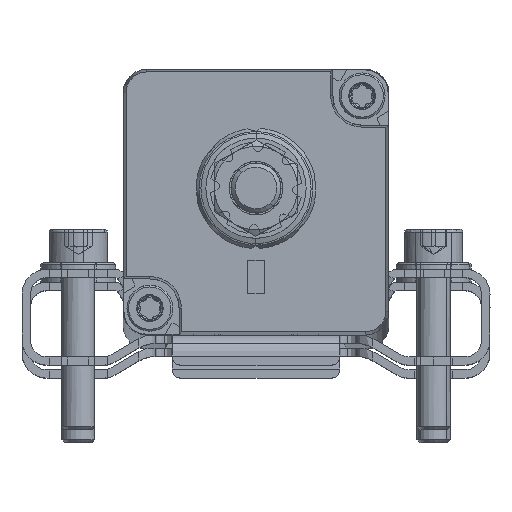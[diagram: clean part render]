
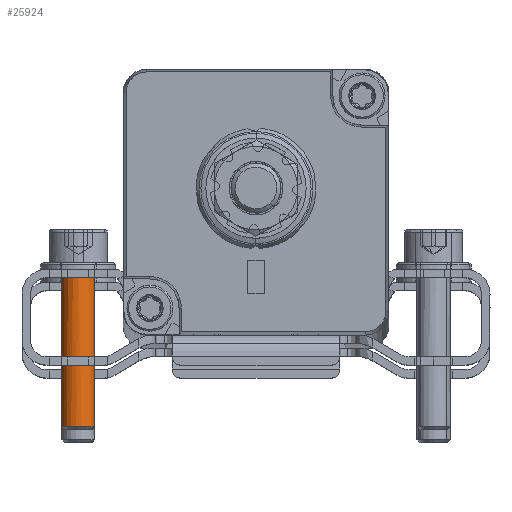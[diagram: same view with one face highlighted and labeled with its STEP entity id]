
A CAD part, top view. The second image highlights one B-rep face of the part: STEP entity #25924.
In plain terms, the highlighted cylindrical face has radius 2 mm (diameter 4 mm), a partial arc.
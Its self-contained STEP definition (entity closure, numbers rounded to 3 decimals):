
#225 = ORIENTED_EDGE ( 'NONE', *, *, #26904, .F. ) ;
#283 = ORIENTED_EDGE ( 'NONE', *, *, #23275, .T. ) ;
#284 = ORIENTED_EDGE ( 'NONE', *, *, #24676, .F. ) ;
#323 = ORIENTED_EDGE ( 'NONE', *, *, #22422, .T. ) ;
#22371 = VERTEX_POINT ( 'NONE', #24034 ) ;
#22422 = EDGE_CURVE ( 'NONE', #22371, #22552, #24092, .T. ) ;
#22552 = VERTEX_POINT ( 'NONE', #24154 ) ;
#23275 = EDGE_CURVE ( 'NONE', #22552, #23337, #24388, .T. ) ;
#23337 = VERTEX_POINT ( 'NONE', #24429 ) ;
#23478 = EDGE_CURVE ( 'NONE', #22371, #23616, #24416, .T. ) ;
#23616 = VERTEX_POINT ( 'NONE', #24495 ) ;
#24034 = CARTESIAN_POINT ( 'NONE',  ( -19.284, -7.178, 115.881 ) ) ;
#24091 = AXIS2_PLACEMENT_3D ( 'NONE', #24097, #24158, #24157 ) ;
#24092 = CIRCLE ( 'NONE', #24091, 2. ) ;
#24097 = CARTESIAN_POINT ( 'NONE',  ( -21.25, -7.178, 116.25 ) ) ;
#24154 = CARTESIAN_POINT ( 'NONE',  ( -23.216, -7.178, 116.619 ) ) ;
#24157 = DIRECTION ( 'NONE',  ( -0.983, 0., 0.184 ) ) ;
#24158 = DIRECTION ( 'NONE',  ( 0., -1., 0. ) ) ;
#24385 = DIRECTION ( 'NONE',  ( 0., -1., 0. ) ) ;
#24386 = VECTOR ( 'NONE', #24385, 1000. ) ;
#24387 = CARTESIAN_POINT ( 'NONE',  ( -23.216, -7.178, 116.619 ) ) ;
#24388 = LINE ( 'NONE', #24387, #24386 ) ;
#24412 = DIRECTION ( 'NONE',  ( 0., -1., 0. ) ) ;
#24414 = VECTOR ( 'NONE', #24412, 1000. ) ;
#24415 = CARTESIAN_POINT ( 'NONE',  ( -19.284, -7.178, 115.881 ) ) ;
#24416 = LINE ( 'NONE', #24415, #24414 ) ;
#24429 = CARTESIAN_POINT ( 'NONE',  ( -23.216, -26.628, 116.619 ) ) ;
#24495 = CARTESIAN_POINT ( 'NONE',  ( -19.284, -26.628, 115.881 ) ) ;
#24676 = EDGE_CURVE ( 'NONE', #24972, #23337, #24956, .T. ) ;
#24952 = DIRECTION ( 'NONE',  ( -0.983, 0., 0.184 ) ) ;
#24953 = DIRECTION ( 'NONE',  ( 0., -1., 0. ) ) ;
#24954 = CARTESIAN_POINT ( 'NONE',  ( -21.25, -26.628, 116.25 ) ) ;
#24955 = AXIS2_PLACEMENT_3D ( 'NONE', #24954, #24953, #24952 ) ;
#24956 = CIRCLE ( 'NONE', #24955, 2. ) ;
#24972 = VERTEX_POINT ( 'NONE', #25058 ) ;
#25058 = CARTESIAN_POINT ( 'NONE',  ( -20.881, -26.628, 118.216 ) ) ;
#25385 = DIRECTION ( 'NONE',  ( -0.983, 0., 0.184 ) ) ;
#25386 = DIRECTION ( 'NONE',  ( 0., -1., 0. ) ) ;
#25387 = AXIS2_PLACEMENT_3D ( 'NONE', #25389, #25386, #25385 ) ;
#25388 = CYLINDRICAL_SURFACE ( 'NONE', #25387, 2. ) ;
#25389 = CARTESIAN_POINT ( 'NONE',  ( -21.25, -7.178, 116.25 ) ) ;
#25407 = FACE_OUTER_BOUND ( 'NONE', #26150, .T. ) ;
#25680 = DIRECTION ( 'NONE',  ( -0.983, 0., 0.184 ) ) ;
#25681 = DIRECTION ( 'NONE',  ( 0., -1., 0. ) ) ;
#25682 = CARTESIAN_POINT ( 'NONE',  ( -21.25, -26.628, 116.25 ) ) ;
#25683 = AXIS2_PLACEMENT_3D ( 'NONE', #25682, #25681, #25680 ) ;
#25685 = CIRCLE ( 'NONE', #25683, 2. ) ;
#25817 = ORIENTED_EDGE ( 'NONE', *, *, #23478, .F. ) ;
#25924 = ADVANCED_FACE ( 'NONE', ( #25407 ), #25388, .T. ) ;
#26150 = EDGE_LOOP ( 'NONE', ( #25817, #323, #283, #284, #225 ) ) ;
#26904 = EDGE_CURVE ( 'NONE', #23616, #24972, #25685, .T. ) ;
